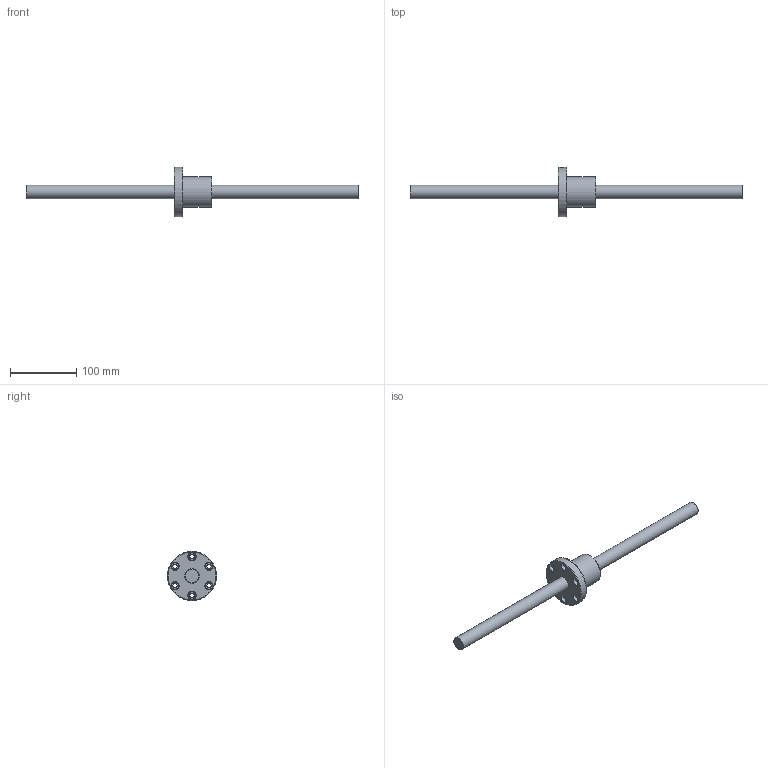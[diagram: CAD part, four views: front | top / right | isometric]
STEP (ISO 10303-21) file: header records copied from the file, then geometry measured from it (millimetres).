
FILE_DESCRIPTION (( 'STEP AP203' ), '1' );
FILE_NAME ('SFV02010N-2.7.step', '2024-05-20T03:37:53', ( '' ), ( '' ), 'SwSTEP 2.0', 'SolidWorks 2022', '' );
FILE_SCHEMA (( 'CONFIG_CONTROL_DESIGN' ));
Length unit declared in the file: millimetre
Products named in the file (1): SFV02010N-2.7
Bounding box: 500 x 74 x 74 mm (x, y, z)
Volume: 258024.9 mm3; surface area: 54953.1 mm2
Topology: 2 solids, 2 shells, 57 faces, 128 edges, 82 vertices
Faces by surface type: cylinder 24, cone 13, plane 12, bspline 5, torus 3
Full cylindrical faces by diameter (mm): 4 x1, 5 x6, 6.6 x6, 11 x6, 20 x1, 22.3 x1, 46 x1, 74 x1
Entity records: 2942 total; most frequent: CARTESIAN_POINT 1943, DIRECTION 196, ORIENTED_EDGE 126, EDGE_LOOP 108, AXIS2_PLACEMENT_3D 96, FACE_OUTER_BOUND 72, EDGE_CURVE 63, VERTEX_POINT 59
